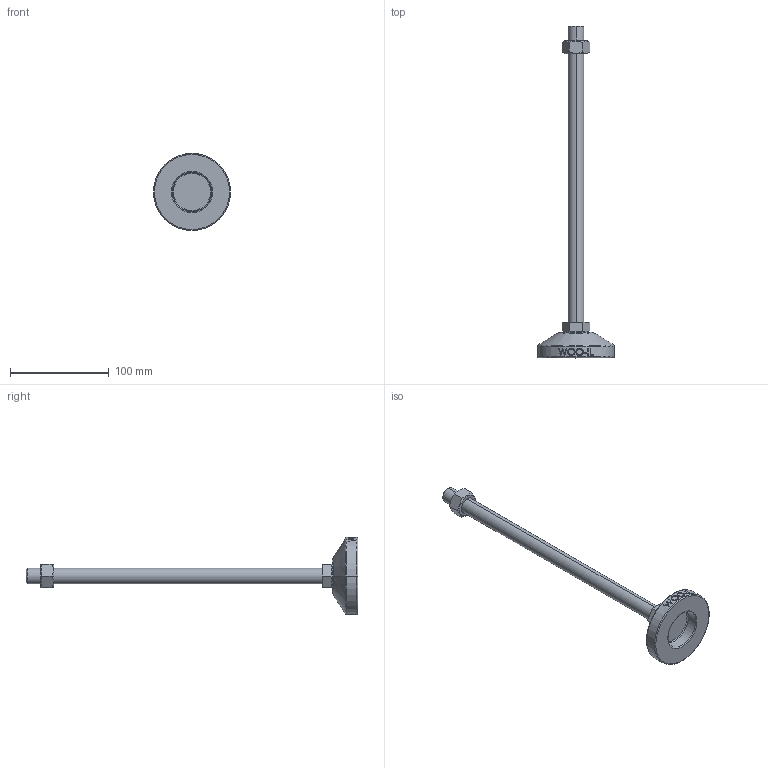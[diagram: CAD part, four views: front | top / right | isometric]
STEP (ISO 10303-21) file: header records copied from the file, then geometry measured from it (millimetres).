
FILE_DESCRIPTION (( 'STEP AP214' ), '1' );
FILE_NAME ('MF78-M16-300.step', '2021-02-03T08:21:03', ( '' ), ( '' ), 'SwSTEP 2.0', 'SolidWorks 2019', '' );
FILE_SCHEMA (( 'AUTOMOTIVE_DESIGN' ));
Length unit declared in the file: millimetre
Products named in the file (2): MF78-M16-300
Bounding box: 78 x 336 x 78 mm (x, y, z)
Volume: 148923.7 mm3; surface area: 33801.2 mm2
Topology: 3 solids, 3 shells, 106 faces, 243 edges, 154 vertices
Faces by surface type: plane 48, cylinder 18, bspline 16, cone 14, torus 10
Entity records: 4520 total; most frequent: CARTESIAN_POINT 2177, ORIENTED_EDGE 486, DIRECTION 439, EDGE_CURVE 243, AXIS2_PLACEMENT_3D 170, VERTEX_POINT 154, EDGE_LOOP 119, ADVANCED_FACE 106
